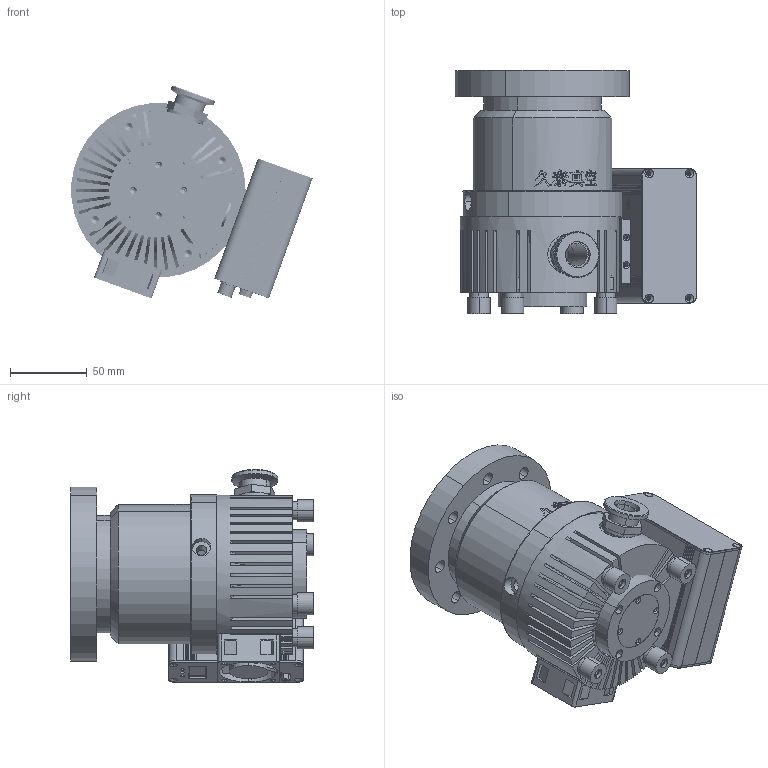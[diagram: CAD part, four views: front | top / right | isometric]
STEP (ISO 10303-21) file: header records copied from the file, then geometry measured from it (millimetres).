
FILE_DESCRIPTION (( 'STEP AP203' ), '1' );
FILE_NAME ('JTFB-80煦赽掙圉棠-23-12-23w-CF.STEP', '2025-03-31T02:44:03', ( 'User' ), ( 'China' ), 'SwSTEP 2.0', 'SolidWorks 2016', '' );
FILE_SCHEMA (( 'CONFIG_CONTROL_DESIGN' ));
Length unit declared in the file: millimetre
Products named in the file (13): JTFB-63萇埭嘐隅啣1圉棠-23-12-23w; JTFB-80掙褲-圉棠-23-12-23CF; MP24D-BR1圉棠-23-12-23w; JTFB-80綴裔 瑞濮B圉棠-23-12-23; JTFB-80圉棠菁裔23-12-23w; JTFB-80-KF16-圉棠-23-12-23w; JTFB-80煦赽掙圉棠-23-12-23w-CF; JTFB-80虯蝶杶B圉棠-23-12-23w; YD4020HSL瑞圮圉棠-23-12-23w; JTFB-63虯-圉棠-23-12-23w; 萇埭諉芛MX15-8圉棠-23-12-23w; JTFB-63-萇埭嘐隅啣圉棠-23-12-23w; JTFB-80掙极-圉棠-23-12-23源w
Assembly tree (18 placements, depth 2):
  JTFB-80煦赽掙圉棠-23-12-23w-CF
    JTFB-80掙极-圉棠-23-12-23源w
    JTFB-80掙褲-圉棠-23-12-23CF
    JTFB-80綴裔 瑞濮B圉棠-23-12-23
    JTFB-80-KF16-圉棠-23-12-23w
    JTFB-80虯蝶杶B圉棠-23-12-23w  x4
    YD4020HSL瑞圮圉棠-23-12-23w
    JTFB-63虯-圉棠-23-12-23w  x4
    萇埭諉芛MX15-8圉棠-23-12-23w
    JTFB-63-萇埭嘐隅啣圉棠-23-12-23w
    JTFB-63萇埭嘐隅啣1圉棠-23-12-23w
    MP24D-BR1圉棠-23-12-23w
    JTFB-80圉棠菁裔23-12-23w
Bounding box: 157.46 x 158.65 x 139.13 mm (x, y, z)
Volume: 681329.8 mm3; surface area: 283779.2 mm2
Topology: 18 solids, 48 shells, 2607 faces, 7090 edges, 4621 vertices
Faces by surface type: cylinder 1127, plane 598, bspline 544, cone 308, sphere 30
Entity records: 232149 total; most frequent: CARTESIAN_POINT 172734, ORIENTED_EDGE 13467, DIRECTION 10387, EDGE_CURVE 6749, VERTEX_POINT 4449, AXIS2_PLACEMENT_3D 3845, EDGE_LOOP 2887, LINE 2697
